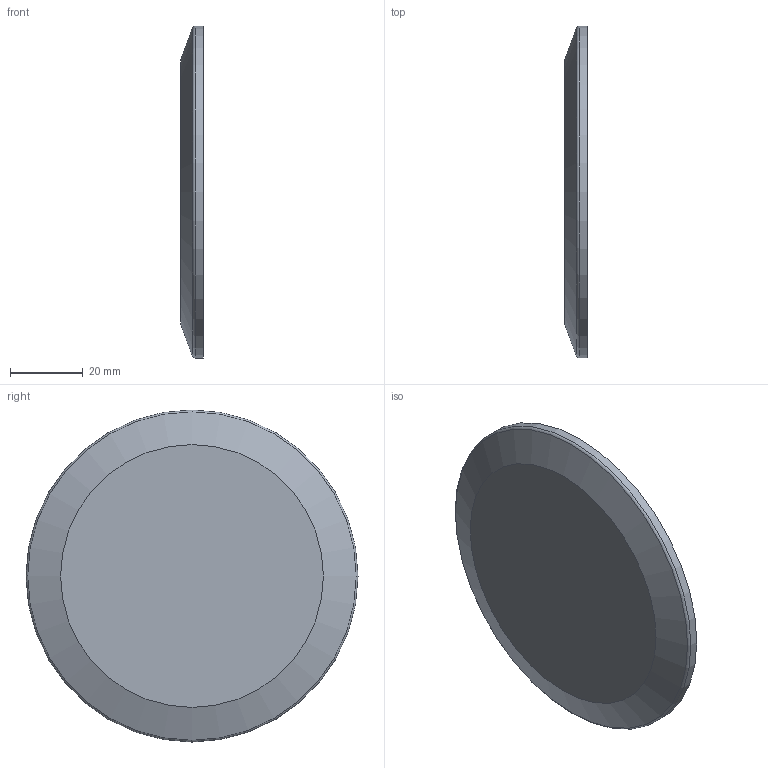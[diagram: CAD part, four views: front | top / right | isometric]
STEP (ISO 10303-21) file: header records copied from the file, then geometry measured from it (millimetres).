
FILE_DESCRIPTION(/* description */ (''),/* implementation_level */ '2;1');
FILE_NAME(/* name */ '12766-Ferrule size-91.stp',/* time_stamp */ '2024-12-16T08:13:01+01:00',/* author */ ('roger.thijssen'),/* organization */ (''),/* preprocessor_version */ 'ST-DEVELOPER v20',/* originating_system */ 'Autodesk Inventor 2025',/* authorisation */ '');
FILE_SCHEMA (('AUTOMOTIVE_DESIGN { 1 0 10303 214 3 1 1 }'));
Length unit declared in the file: millimetre
Products named in the file (1): 12766-Ferrule size-91
Bounding box: 6.3 x 91 x 91 mm (x, y, z)
Volume: 35688.9 mm3; surface area: 14330.9 mm2
Topology: 1 solids, 1 shells, 11 faces, 21 edges, 13 vertices
Faces by surface type: torus 4, cone 3, plane 3, cylinder 1
Full cylindrical faces by diameter (mm): 91 x1
Entity records: 351 total; most frequent: DIRECTION 62, CARTESIAN_POINT 46, ORIENTED_EDGE 42, AXIS2_PLACEMENT_3D 29, EDGE_CURVE 21, CIRCLE 17, VERTEX_POINT 13, EDGE_LOOP 12
